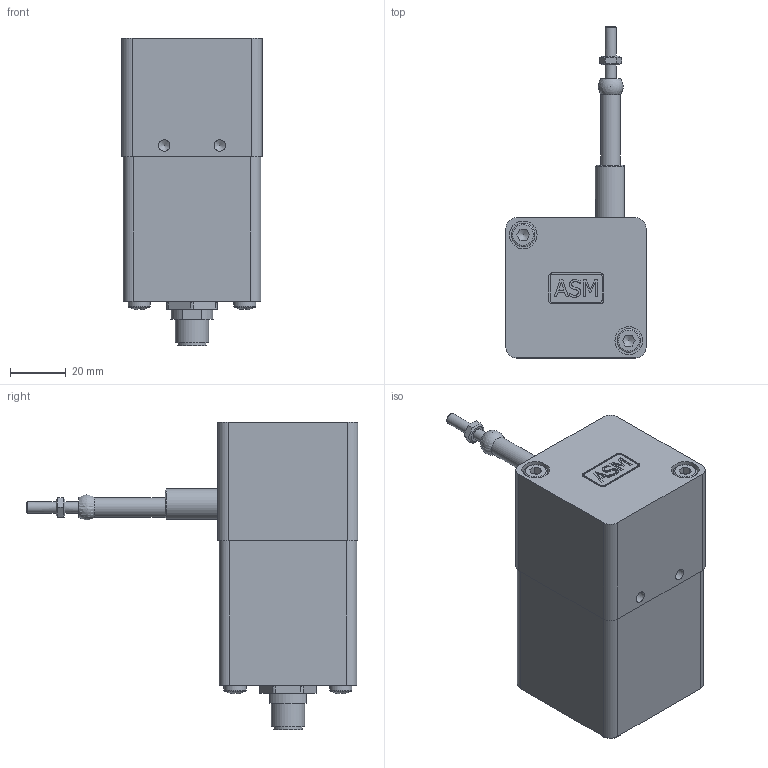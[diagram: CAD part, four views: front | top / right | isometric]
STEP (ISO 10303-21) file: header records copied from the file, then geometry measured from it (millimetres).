
FILE_DESCRIPTION(/* description */ (''),/* implementation_level */ '2;1');
FILE_NAME(/* name */ 'C:\Users\Kamp\Desktop\WS10ZG 375!750 M4.stp',/* time_stamp */ '2021-06-08T16:43:19+02:00',/* author */ ('kamp'),/* organization */ (''),/* preprocessor_version */ 'ST-DEVELOPER v15.6',/* originating_system */ 'Autodesk Inventor 2015',/* authorisation */ '');
FILE_SCHEMA (('CONFIG_CONTROL_DESIGN'));
Length unit declared in the file: centimetre
Products named in the file (1): WS10ZG 375!750 M4
Bounding box: 50.35 x 119.35 x 110.4 mm (x, y, z)
Volume: 238733.2 mm3; surface area: 27429.6 mm2
Topology: 1 solids, 1 shells, 245 faces, 651 edges, 431 vertices
Faces by surface type: plane 144, cylinder 51, bspline 28, cone 12, sphere 6, torus 4
Full cylindrical faces by diameter (mm): 1 x5, 4 x2, 4.134 x4, 7 x1, 8 x2, 8.3 x1, 8.5 x2, 10 x2, 10.4 x1, 12 x1
Entity records: 7677 total; most frequent: CARTESIAN_POINT 1876, ORIENTED_EDGE 1158, DIRECTION 1039, EDGE_CURVE 579, VERTEX_POINT 401, AXIS2_PLACEMENT_3D 352, LINE 335, VECTOR 335
